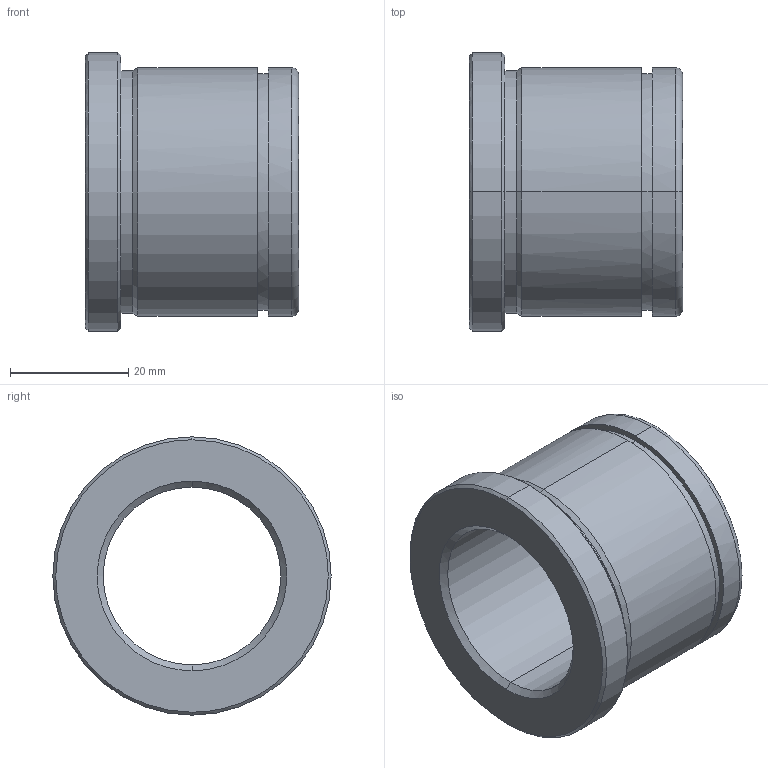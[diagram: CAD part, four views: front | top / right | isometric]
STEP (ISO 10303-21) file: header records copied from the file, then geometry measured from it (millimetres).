
FILE_DESCRIPTION(('CATIA V5 STEP Exchange'),'2;1');
FILE_NAME('C:\Users\Utente\Desktop\IO LAVORO\3D X SITO CF\X SITO\PLASTICA\553\553-30X36.stp','2021-05-26T18:27:15+00:00',('none'),('none'),'CATIA Version 5 Release 20 GA (IN-10)','CATIA V5 STEP AP203','none');
FILE_SCHEMA(('CONFIG_CONTROL_DESIGN'));
Length unit declared in the file: millimetre
Products named in the file (1): 553-30X36
Bounding box: 36 x 47 x 47 mm (x, y, z)
Volume: 25872.8 mm3; surface area: 10306.4 mm2
Topology: 1 solids, 1 shells, 29 faces, 92 edges, 68 vertices
Faces by surface type: cylinder 12, cone 8, plane 5, torus 4
Entity records: 1228 total; most frequent: CARTESIAN_POINT 378, ORIENTED_EDGE 184, DIRECTION 134, EDGE_CURVE 92, AXIS2_PLACEMENT_3D 86, VERTEX_POINT 68, CIRCLE 56, EDGE_LOOP 34
